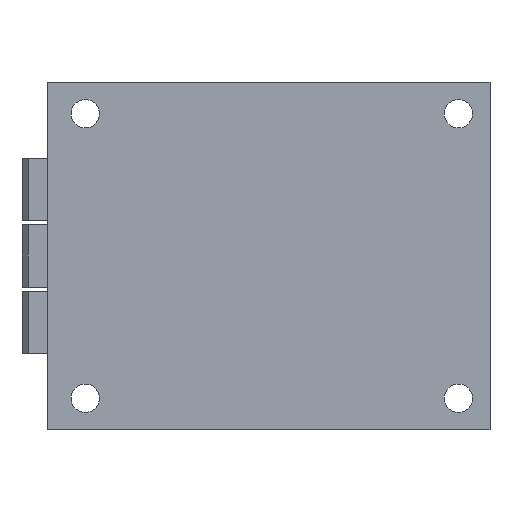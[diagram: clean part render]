
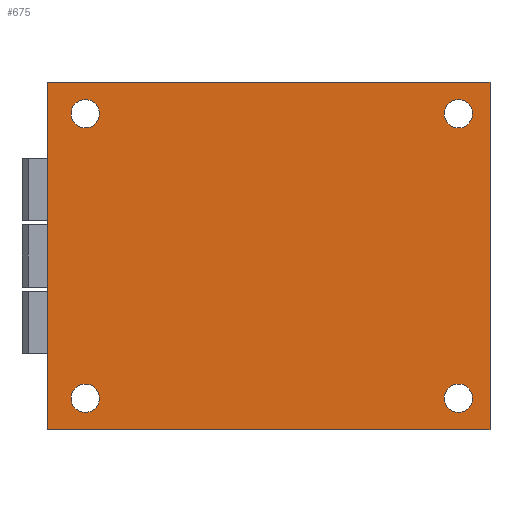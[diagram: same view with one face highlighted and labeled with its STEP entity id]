
A CAD part, front view. The second image highlights one B-rep face of the part: STEP entity #675.
In plain terms, the highlighted planar face has unit normal (0, -1, 0).
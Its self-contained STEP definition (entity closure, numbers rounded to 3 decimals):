
#675=ADVANCED_FACE('',(#1308,#1309,#1310,#1311,#1312),#1313,.F.);
#1308=FACE_OUTER_BOUND('',#1958,.T.);
#1309=FACE_BOUND('',#1959,.T.);
#1310=FACE_BOUND('',#1960,.T.);
#1311=FACE_BOUND('',#1961,.T.);
#1312=FACE_BOUND('',#1962,.T.);
#1313=PLANE('',#1963);
#1958=EDGE_LOOP('',(#4187,#4188,#4189,#4190));
#1959=EDGE_LOOP('',(#4191));
#1960=EDGE_LOOP('',(#4192));
#1961=EDGE_LOOP('',(#4193));
#1962=EDGE_LOOP('',(#4194));
#1963=AXIS2_PLACEMENT_3D('',#4195,#4196,#4197);
#4187=ORIENTED_EDGE('',*,*,#4931,.T.);
#4188=ORIENTED_EDGE('',*,*,#4932,.F.);
#4189=ORIENTED_EDGE('',*,*,#4928,.F.);
#4190=ORIENTED_EDGE('',*,*,#4916,.T.);
#4191=ORIENTED_EDGE('',*,*,#4921,.F.);
#4192=ORIENTED_EDGE('',*,*,#4920,.F.);
#4193=ORIENTED_EDGE('',*,*,#4922,.F.);
#4194=ORIENTED_EDGE('',*,*,#4923,.F.);
#4195=CARTESIAN_POINT('',(0.0,0.0,27.5));
#4196=DIRECTION('',(-0.0,1.0,0.0));
#4197=DIRECTION('',(1.0,0.0,0.0));
#4916=EDGE_CURVE('',#6088,#6086,#6089,.T.);
#4920=EDGE_CURVE('',#6095,#6095,#6096,.T.);
#4921=EDGE_CURVE('',#6097,#6097,#6098,.T.);
#4922=EDGE_CURVE('',#6099,#6099,#6100,.T.);
#4923=EDGE_CURVE('',#6101,#6101,#6102,.T.);
#4928=EDGE_CURVE('',#6088,#6111,#6112,.T.);
#4931=EDGE_CURVE('',#6086,#6116,#6117,.T.);
#4932=EDGE_CURVE('',#6111,#6116,#6118,.T.);
#6086=VERTEX_POINT('',#7938);
#6088=VERTEX_POINT('',#7941);
#6089=LINE('',#7942,#7943);
#6095=VERTEX_POINT('',#7950);
#6096=CIRCLE('',#7951,2.25);
#6097=VERTEX_POINT('',#7952);
#6098=CIRCLE('',#7953,2.25);
#6099=VERTEX_POINT('',#7954);
#6100=CIRCLE('',#7955,2.25);
#6101=VERTEX_POINT('',#7956);
#6102=CIRCLE('',#7957,2.25);
#6111=VERTEX_POINT('',#7966);
#6112=LINE('',#7967,#7968);
#6116=VERTEX_POINT('',#7973);
#6117=LINE('',#7974,#7975);
#6118=LINE('',#7976,#7977);
#7938=CARTESIAN_POINT('',(0.0,0.0,-27.5));
#7941=CARTESIAN_POINT('',(0.0,0.0,27.5));
#7942=CARTESIAN_POINT('',(0.0,0.0,27.5));
#7943=VECTOR('',#8898,1.0);
#7950=CARTESIAN_POINT('',(65.0,0.0,-20.25));
#7951=AXIS2_PLACEMENT_3D('',#8906,#8907,#8908);
#7952=CARTESIAN_POINT('',(6.0,0.0,24.75));
#7953=AXIS2_PLACEMENT_3D('',#8909,#8910,#8911);
#7954=CARTESIAN_POINT('',(6.0,0.0,-20.25));
#7955=AXIS2_PLACEMENT_3D('',#8912,#8913,#8914);
#7956=CARTESIAN_POINT('',(65.0,0.0,24.75));
#7957=AXIS2_PLACEMENT_3D('',#8915,#8916,#8917);
#7966=CARTESIAN_POINT('',(70.0,0.0,27.5));
#7967=CARTESIAN_POINT('',(0.0,0.0,27.5));
#7968=VECTOR('',#8930,1.0);
#7973=CARTESIAN_POINT('',(70.0,0.0,-27.5));
#7974=CARTESIAN_POINT('',(0.0,0.0,-27.5));
#7975=VECTOR('',#8935,1.0);
#7976=CARTESIAN_POINT('',(70.0,0.0,27.5));
#7977=VECTOR('',#8936,1.0);
#8898=DIRECTION('',(0.0,0.0,-1.0));
#8906=CARTESIAN_POINT('',(65.0,0.0,-22.5));
#8907=DIRECTION('',(0.0,-1.0,0.0));
#8908=DIRECTION('',(0.0,0.0,1.0));
#8909=CARTESIAN_POINT('',(6.0,0.0,22.5));
#8910=DIRECTION('',(0.0,-1.0,0.0));
#8911=DIRECTION('',(0.0,0.0,1.0));
#8912=CARTESIAN_POINT('',(6.0,0.0,-22.5));
#8913=DIRECTION('',(0.0,-1.0,0.0));
#8914=DIRECTION('',(0.0,0.0,1.0));
#8915=CARTESIAN_POINT('',(65.0,0.0,22.5));
#8916=DIRECTION('',(0.0,-1.0,0.0));
#8917=DIRECTION('',(0.0,0.0,1.0));
#8930=DIRECTION('',(1.0,0.0,0.0));
#8935=DIRECTION('',(1.0,0.0,0.0));
#8936=DIRECTION('',(0.0,0.0,-1.0));
